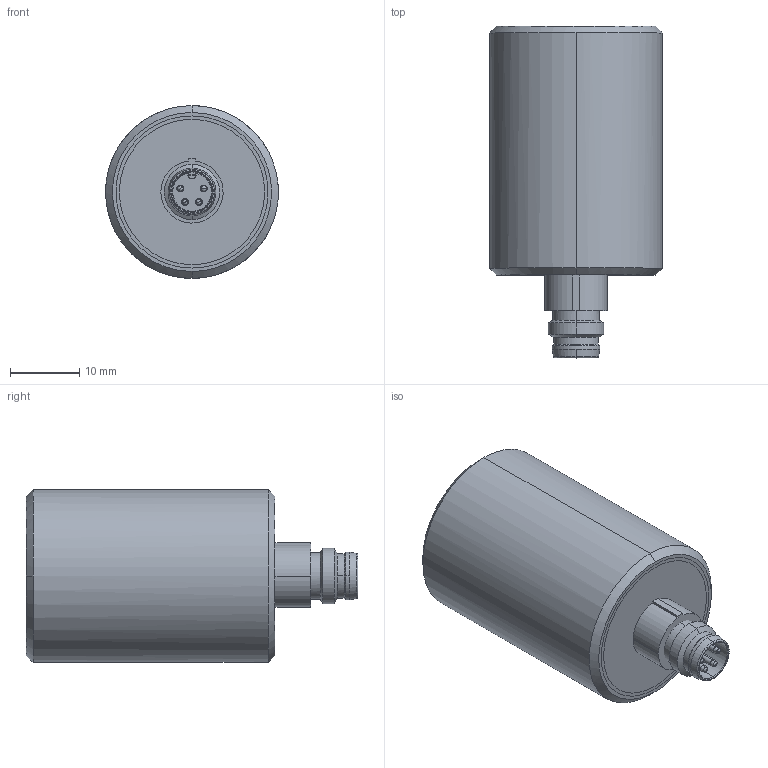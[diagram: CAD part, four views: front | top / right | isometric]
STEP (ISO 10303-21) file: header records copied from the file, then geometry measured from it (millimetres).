
FILE_DESCRIPTION (( 'STEP AP214' ), '1' );
FILE_NAME ('N250_N251_N255_N256(M8).STEP', '2025-06-12T13:20:54', ( '' ), ( '' ), 'SwSTEP 2.0', 'SolidWorks 2025', '' );
FILE_SCHEMA (( 'AUTOMOTIVE_DESIGN' ));
Length unit declared in the file: millimetre
Products named in the file (10): 2-3; N250_N251_N255_N256(M8); 5-3; conn3; 6-3; 1-3; cop3; 3-3; 4-3; corp3
Assembly tree (9 placements, depth 3):
  N250_N251_N255_N256(M8)
    conn3
      1-3
      2-3
      3-3
      4-3
      5-3
      6-3
    cop3
    corp3
Bounding box: 25 x 48 x 25 mm (x, y, z)
Volume: 18034.2 mm3; surface area: 5954.6 mm2
Topology: 8 solids, 8 shells, 219 faces, 648 edges, 463 vertices
Faces by surface type: cylinder 81, plane 65, cone 57, torus 8, sphere 8
Entity records: 12042 total; most frequent: CARTESIAN_POINT 6591, ORIENTED_EDGE 1280, DIRECTION 683, EDGE_CURVE 640, VERTEX_POINT 463, B_SPLINE_CURVE_WITH_KNOTS 421, EDGE_LOOP 257, AXIS2_PLACEMENT_3D 253
